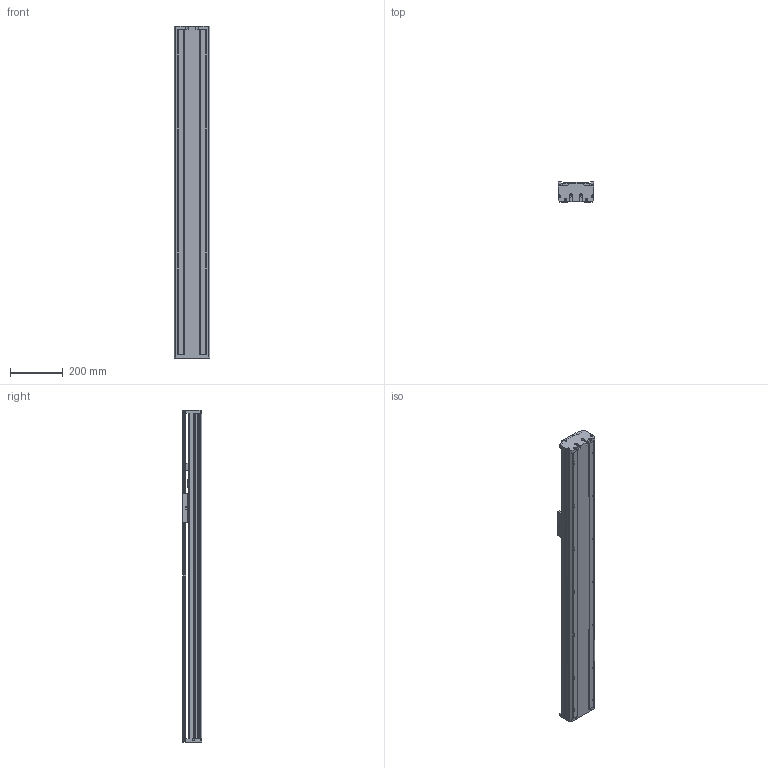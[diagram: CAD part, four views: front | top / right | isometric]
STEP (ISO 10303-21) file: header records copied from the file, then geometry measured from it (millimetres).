
FILE_DESCRIPTION(/* description */ (''),/* implementation_level */ '2;1');
FILE_NAME(/* name */ 'TKA136-FI-800_asm1.stp',/* time_stamp */ '2016-05-07T10:42:56+08:00',/* author */ (''),/* organization */ (''),/* preprocessor_version */ 'ST-DEVELOPER v15',/* originating_system */ 'SIEMENS PLM Software NX 8.5',/* authorisation */ '');
FILE_SCHEMA (('AUTOMOTIVE_DESIGN { 1 0 10303 214 3 1 1 1 }'));
Length unit declared in the file: millimetre
Products named in the file (3): 100-02; 100-01; TKA136-FI-800_asm1
Assembly tree (2 placements, depth 2):
  TKA136-FI-800_asm1
    100-01
    100-02
Bounding box: 136 x 75 x 1259 mm (x, y, z)
Volume: 3839400.8 mm3; surface area: 1448881.7 mm2
Topology: 2 solids, 12 shells, 973 faces, 2828 edges, 1855 vertices
Faces by surface type: cylinder 485, plane 438, cone 50
Full cylindrical faces by diameter (mm): 2.5 x4, 3.3 x8, 4.2 x8, 4.5 x20, 5 x12, 5.5 x14, 8 x20, 10 x9, 10.5 x8, 11.6 x1, 12 x8, 15 x3, 16 x5, 24 x3, 26 x1, 28 x1, 46 x1
Entity records: 34319 total; most frequent: CARTESIAN_POINT 9049, ORIENTED_EDGE 5212, DIRECTION 5156, EDGE_CURVE 2606, AXIS2_PLACEMENT_3D 1916, VERTEX_POINT 1807, LINE 1324, VECTOR 1324
